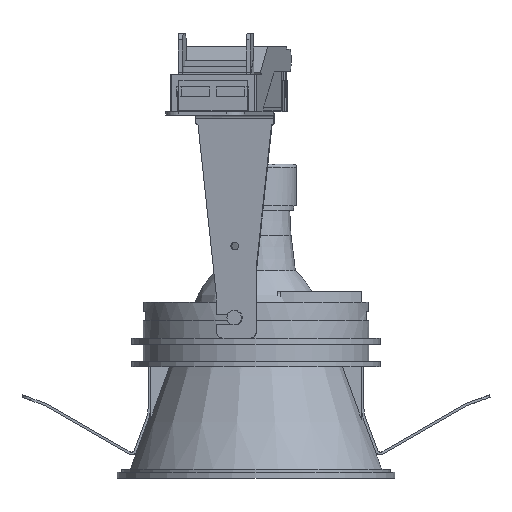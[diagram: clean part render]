
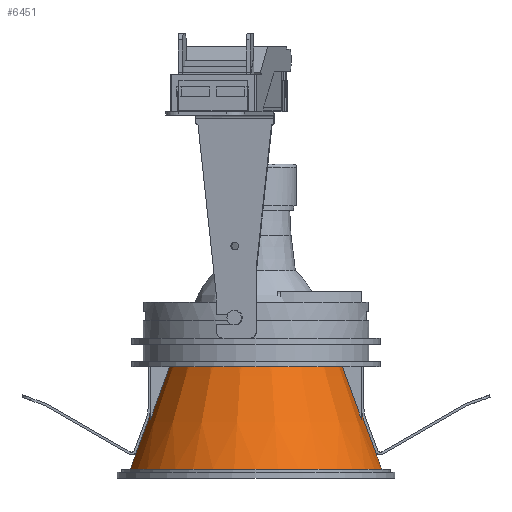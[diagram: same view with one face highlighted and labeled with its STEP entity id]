
A CAD part, front view. The second image highlights one B-rep face of the part: STEP entity #6451.
In plain terms, the highlighted conical face has half-angle 20 degrees and reference radius 25.568 mm.
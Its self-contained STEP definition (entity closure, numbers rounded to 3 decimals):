
#197=CONICAL_SURFACE('',#6845,25.568,0.349);
#471=FACE_OUTER_BOUND('',#835,.T.);
#835=EDGE_LOOP('',(#4551,#4552,#4553,#4554));
#1227=LINE('',#9306,#1955);
#1228=LINE('',#9309,#1956);
#1955=VECTOR('',#7445,304.8);
#1956=VECTOR('',#7448,304.8);
#2683=CIRCLE('',#6842,40.29);
#2685=CIRCLE('',#6846,23.932);
#2879=VERTEX_POINT('',#9297);
#2880=VERTEX_POINT('',#9299);
#2881=VERTEX_POINT('',#9305);
#2882=VERTEX_POINT('',#9307);
#3536=EDGE_CURVE('',#2880,#2879,#2683,.T.);
#3539=EDGE_CURVE('',#2881,#2879,#1227,.T.);
#3540=EDGE_CURVE('',#2882,#2881,#2685,.T.);
#3541=EDGE_CURVE('',#2880,#2882,#1228,.T.);
#4551=ORIENTED_EDGE('',*,*,#3536,.T.);
#4552=ORIENTED_EDGE('',*,*,#3539,.F.);
#4553=ORIENTED_EDGE('',*,*,#3540,.F.);
#4554=ORIENTED_EDGE('',*,*,#3541,.F.);
#6451=ADVANCED_FACE('',(#471),#197,.T.);
#6842=AXIS2_PLACEMENT_3D('',#9300,#7436,#7437);
#6845=AXIS2_PLACEMENT_3D('',#9304,#7443,#7444);
#6846=AXIS2_PLACEMENT_3D('',#9308,#7446,#7447);
#7436=DIRECTION('center_axis',(0.,0.,1.));
#7437=DIRECTION('ref_axis',(-0.809,0.588,0.));
#7443=DIRECTION('center_axis',(0.,0.,
-1.));
#7444=DIRECTION('ref_axis',(0.,-1.,0.));
#7445=DIRECTION('',(0.342,0.,-0.94));
#7446=DIRECTION('center_axis',(0.,0.,1.));
#7447=DIRECTION('ref_axis',(-0.809,0.588,0.));
#7448=DIRECTION('',(0.342,0.,0.94));
#9297=CARTESIAN_POINT('',(40.29,0.,0.));
#9299=CARTESIAN_POINT('',(-40.29,0.,0.));
#9300=CARTESIAN_POINT('Origin',(0.,0.,
0.));
#9304=CARTESIAN_POINT('Origin',(0.,0.,
40.45));
#9305=CARTESIAN_POINT('',(23.932,0.,44.945));
#9306=CARTESIAN_POINT('',(23.932,0.,44.945));
#9307=CARTESIAN_POINT('',(-23.932,0.,44.945));
#9308=CARTESIAN_POINT('Origin',(0.,0.,
44.945));
#9309=CARTESIAN_POINT('',(-40.29,0.,0.));
